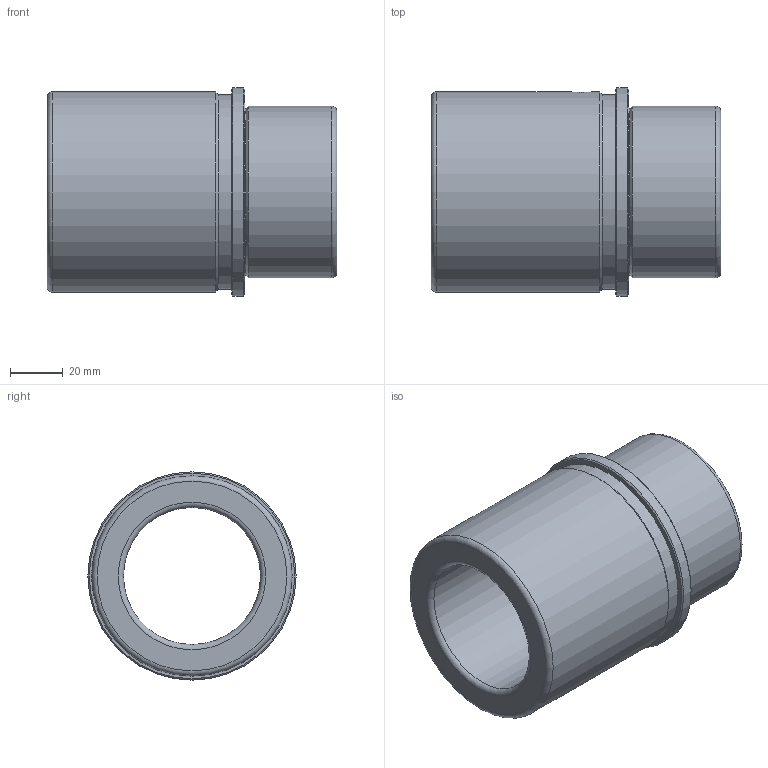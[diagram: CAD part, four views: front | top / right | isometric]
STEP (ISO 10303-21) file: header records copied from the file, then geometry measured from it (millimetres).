
FILE_DESCRIPTION( ( 'STEP AP214' ), '1' );
FILE_NAME( 'p:/temp/worker_30/temp/exporttempdir_4612_101_ehSBN/format_2/WZ - 4055 52 x 110.stp', '2020-12-04T19:48:01', ( 'License CC BY-ND 4.0' ), ( 'CADENAS' ), ' ', 'PARTsolutions', ' ' );
FILE_SCHEMA( ( 'AUTOMOTIVE_DESIGN { 1 0 10303 214 1 1 1 1 }' ) );
Length unit declared in the file: millimetre
Products named in the file (1): _WZ - 4055 52 x 110
Bounding box: 110 x 79 x 79 mm (x, y, z)
Volume: 221336.3 mm3; surface area: 48889.4 mm2
Topology: 1 solids, 1 shells, 21 faces, 38 edges, 22 vertices
Faces by surface type: cylinder 7, cone 5, plane 5, torus 4
Full cylindrical faces by diameter (mm): 8.376 x1, 52 x1, 63 x1, 65 x1, 74 x1, 76 x1, 79 x1
Entity records: 750 total; most frequent: CARTESIAN_POINT 196, DIRECTION 84, EDGE_LOOP 44, ORIENTED_EDGE 44, AXIS2_PLACEMENT_3D 42, FACE_OUTER_BOUND 32, EDGE_CURVE 22, VERTEX_POINT 22
